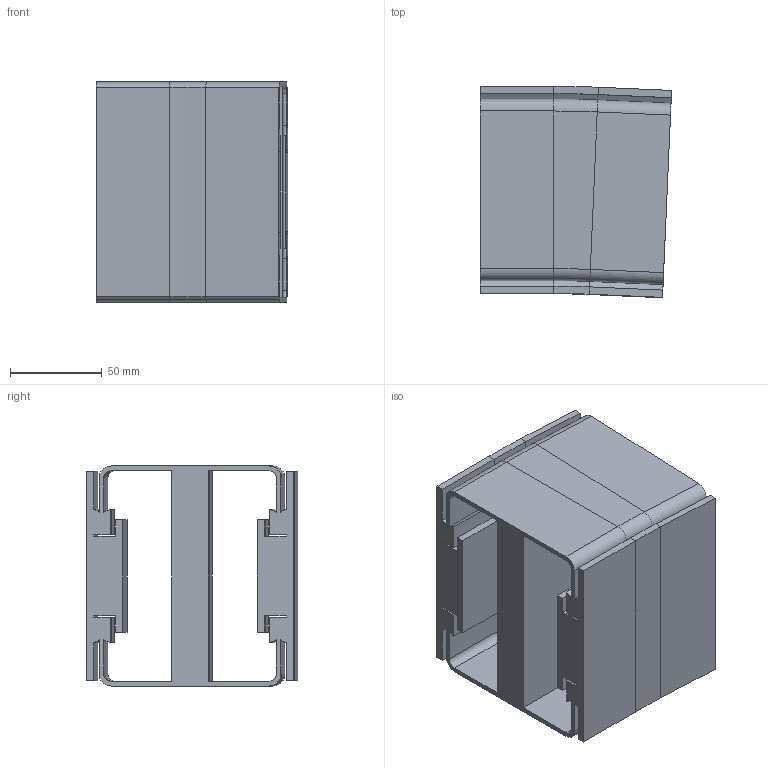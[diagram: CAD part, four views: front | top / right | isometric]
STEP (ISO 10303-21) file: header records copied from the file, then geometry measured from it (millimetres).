
FILE_DESCRIPTION (( 'STEP AP214' ), '1' );
FILE_NAME ('VC.120 Verticale bochtsectie.R500 2,5.STEP', '2017-02-08T08:10:04', ( '' ), ( '' ), 'SwSTEP 2.0', 'SolidWorks 2016', '' );
FILE_SCHEMA (( 'AUTOMOTIVE_DESIGN' ));
Length unit declared in the file: millimetre
Products named in the file (1): VC.120 Verticale bochtsectie.R500 2,5
Bounding box: 104.24 x 115.17 x 120 mm (x, y, z)
Volume: 600324 mm3; surface area: 156952.9 mm2
Topology: 1 solids, 1 shells, 206 faces, 476 edges, 272 vertices
Faces by surface type: plane 144, cylinder 46, cone 8, torus 8
Entity records: 5674 total; most frequent: DIRECTION 990, CARTESIAN_POINT 955, ORIENTED_EDGE 952, EDGE_CURVE 476, VECTOR 376, LINE 376, AXIS2_PLACEMENT_3D 307, VERTEX_POINT 272
